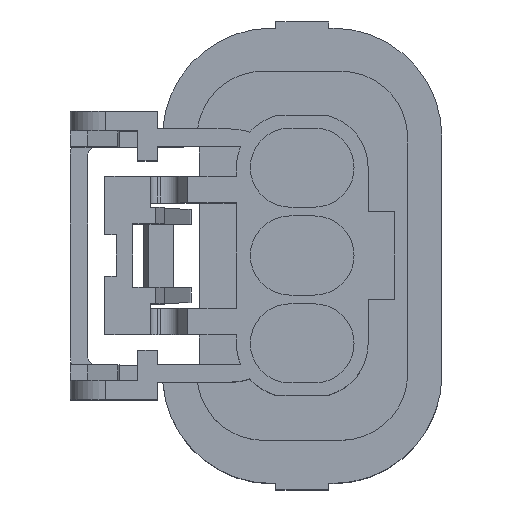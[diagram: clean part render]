
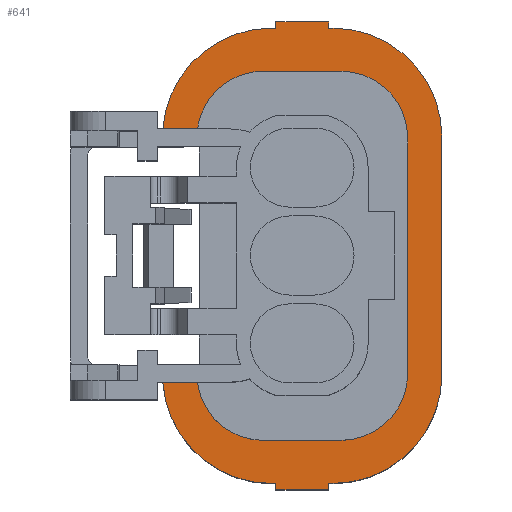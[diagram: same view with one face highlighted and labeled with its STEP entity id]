
A CAD part, top view. The second image highlights one B-rep face of the part: STEP entity #641.
In plain terms, the highlighted planar face has unit normal (0, 0, 1).
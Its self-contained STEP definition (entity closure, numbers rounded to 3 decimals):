
#317=FACE_OUTER_BOUND('',#1219,.T.);
#641=ADVANCED_FACE('',(#317),#925,.T.);
#925=PLANE('',#6514);
#1219=EDGE_LOOP('',(#2303,#2304,#2305,#2306,#2307,#2308,#2309,#2310,#2311,
#2312,#2313,#2314,#2315,#2316,#2317,#2318,#2319,#2320,#2321,#2322,#2323,
#2324,#2325,#2326));
#1455=CIRCLE('',#6415,3.8);
#1456=CIRCLE('',#6418,3.8);
#1477=CIRCLE('',#6491,3.8);
#1483=CIRCLE('',#6508,3.8);
#1484=CIRCLE('',#6510,6.2);
#1485=CIRCLE('',#6511,6.2);
#1486=CIRCLE('',#6512,6.2);
#1487=CIRCLE('',#6513,6.2);
#2303=ORIENTED_EDGE('',*,*,#4329,.F.);
#2304=ORIENTED_EDGE('',*,*,#4154,.F.);
#2305=ORIENTED_EDGE('',*,*,#4152,.F.);
#2306=ORIENTED_EDGE('',*,*,#4150,.F.);
#2307=ORIENTED_EDGE('',*,*,#4148,.F.);
#2308=ORIENTED_EDGE('',*,*,#4145,.F.);
#2309=ORIENTED_EDGE('',*,*,#4355,.F.);
#2310=ORIENTED_EDGE('',*,*,#4357,.T.);
#2311=ORIENTED_EDGE('',*,*,#4358,.F.);
#2312=ORIENTED_EDGE('',*,*,#4359,.F.);
#2313=ORIENTED_EDGE('',*,*,#4360,.F.);
#2314=ORIENTED_EDGE('',*,*,#4361,.F.);
#2315=ORIENTED_EDGE('',*,*,#4362,.F.);
#2316=ORIENTED_EDGE('',*,*,#4363,.F.);
#2317=ORIENTED_EDGE('',*,*,#4364,.F.);
#2318=ORIENTED_EDGE('',*,*,#4365,.T.);
#2319=ORIENTED_EDGE('',*,*,#4366,.F.);
#2320=ORIENTED_EDGE('',*,*,#4367,.F.);
#2321=ORIENTED_EDGE('',*,*,#4368,.F.);
#2322=ORIENTED_EDGE('',*,*,#4369,.F.);
#2323=ORIENTED_EDGE('',*,*,#4370,.F.);
#2324=ORIENTED_EDGE('',*,*,#4371,.F.);
#2325=ORIENTED_EDGE('',*,*,#4372,.F.);
#2326=ORIENTED_EDGE('',*,*,#4373,.T.);
#3503=VERTEX_POINT('',#8897);
#3504=VERTEX_POINT('',#8899);
#3505=VERTEX_POINT('',#8903);
#3506=VERTEX_POINT('',#8907);
#3507=VERTEX_POINT('',#8911);
#3508=VERTEX_POINT('',#8915);
#3629=VERTEX_POINT('',#9279);
#3645=VERTEX_POINT('',#9332);
#3646=VERTEX_POINT('',#9336);
#3647=VERTEX_POINT('',#9338);
#3648=VERTEX_POINT('',#9340);
#3649=VERTEX_POINT('',#9342);
#3650=VERTEX_POINT('',#9344);
#3651=VERTEX_POINT('',#9346);
#3652=VERTEX_POINT('',#9348);
#3653=VERTEX_POINT('',#9350);
#3654=VERTEX_POINT('',#9352);
#3655=VERTEX_POINT('',#9354);
#3656=VERTEX_POINT('',#9356);
#3657=VERTEX_POINT('',#9358);
#3658=VERTEX_POINT('',#9360);
#3659=VERTEX_POINT('',#9362);
#3660=VERTEX_POINT('',#9364);
#3661=VERTEX_POINT('',#9366);
#4145=EDGE_CURVE('',#3503,#3504,#4991,.T.);
#4148=EDGE_CURVE('',#3504,#3505,#1455,.T.);
#4150=EDGE_CURVE('',#3505,#3506,#4995,.T.);
#4152=EDGE_CURVE('',#3506,#3507,#1456,.T.);
#4154=EDGE_CURVE('',#3507,#3508,#4998,.T.);
#4329=EDGE_CURVE('',#3508,#3629,#1477,.T.);
#4355=EDGE_CURVE('',#3645,#3503,#1483,.T.);
#4357=EDGE_CURVE('',#3645,#3646,#5166,.T.);
#4358=EDGE_CURVE('',#3647,#3646,#1484,.T.);
#4359=EDGE_CURVE('',#3648,#3647,#5167,.T.);
#4360=EDGE_CURVE('',#3649,#3648,#5168,.T.);
#4361=EDGE_CURVE('',#3650,#3649,#5169,.T.);
#4362=EDGE_CURVE('',#3651,#3650,#5170,.T.);
#4363=EDGE_CURVE('',#3652,#3651,#5171,.T.);
#4364=EDGE_CURVE('',#3653,#3652,#1485,.T.);
#4365=EDGE_CURVE('',#3653,#3654,#5172,.T.);
#4366=EDGE_CURVE('',#3655,#3654,#1486,.T.);
#4367=EDGE_CURVE('',#3656,#3655,#5173,.T.);
#4368=EDGE_CURVE('',#3657,#3656,#5174,.T.);
#4369=EDGE_CURVE('',#3658,#3657,#5175,.T.);
#4370=EDGE_CURVE('',#3659,#3658,#5176,.T.);
#4371=EDGE_CURVE('',#3660,#3659,#5177,.T.);
#4372=EDGE_CURVE('',#3661,#3660,#1487,.T.);
#4373=EDGE_CURVE('',#3661,#3629,#5178,.T.);
#4991=LINE('',#8898,#5738);
#4995=LINE('',#8908,#5742);
#4998=LINE('',#8916,#5745);
#5166=LINE('',#9335,#5913);
#5167=LINE('',#9339,#5914);
#5168=LINE('',#9341,#5915);
#5169=LINE('',#9343,#5916);
#5170=LINE('',#9345,#5917);
#5171=LINE('',#9347,#5918);
#5172=LINE('',#9351,#5919);
#5173=LINE('',#9355,#5920);
#5174=LINE('',#9357,#5921);
#5175=LINE('',#9359,#5922);
#5176=LINE('',#9361,#5923);
#5177=LINE('',#9363,#5924);
#5178=LINE('',#9367,#5925);
#5738=VECTOR('',#7161,1.);
#5742=VECTOR('',#7171,1.);
#5745=VECTOR('',#7180,1.);
#5913=VECTOR('',#7528,1.);
#5914=VECTOR('',#7531,1.);
#5915=VECTOR('',#7532,1.);
#5916=VECTOR('',#7533,1.);
#5917=VECTOR('',#7534,1.);
#5918=VECTOR('',#7535,1.);
#5919=VECTOR('',#7538,1.);
#5920=VECTOR('',#7541,1.);
#5921=VECTOR('',#7542,1.);
#5922=VECTOR('',#7543,1.);
#5923=VECTOR('',#7544,1.);
#5924=VECTOR('',#7545,1.);
#5925=VECTOR('',#7548,1.);
#6415=AXIS2_PLACEMENT_3D('',#8904,#7166,#7167);
#6418=AXIS2_PLACEMENT_3D('',#8912,#7175,#7176);
#6491=AXIS2_PLACEMENT_3D('',#9278,#7469,#7470);
#6508=AXIS2_PLACEMENT_3D('',#9331,#7523,#7524);
#6510=AXIS2_PLACEMENT_3D('',#9337,#7529,#7530);
#6511=AXIS2_PLACEMENT_3D('',#9349,#7536,#7537);
#6512=AXIS2_PLACEMENT_3D('',#9353,#7539,#7540);
#6513=AXIS2_PLACEMENT_3D('',#9365,#7546,#7547);
#6514=AXIS2_PLACEMENT_3D('',#9368,#7549,#7550);
#7161=DIRECTION('',(1.,0.,0.));
#7166=DIRECTION('',(0.,0.,1.));
#7167=DIRECTION('',(0.,-1.,0.));
#7171=DIRECTION('',(0.,1.,0.));
#7175=DIRECTION('',(0.,0.,1.));
#7176=DIRECTION('',(1.,0.,0.));
#7180=DIRECTION('',(-1.,0.,0.));
#7469=DIRECTION('',(0.,0.,1.));
#7470=DIRECTION('',(0.,1.,0.));
#7523=DIRECTION('',(0.,0.,1.));
#7524=DIRECTION('',(-0.991,-0.132,0.));
#7528=DIRECTION('',(-1.,0.,0.));
#7529=DIRECTION('',(0.,0.,-1.));
#7530=DIRECTION('',(0.,-1.,0.));
#7531=DIRECTION('',(-1.,0.,0.));
#7532=DIRECTION('',(0.,1.,0.));
#7533=DIRECTION('',(-1.,0.,0.));
#7534=DIRECTION('',(0.,-1.,0.));
#7535=DIRECTION('',(-1.,0.,0.));
#7536=DIRECTION('',(0.,0.,-1.));
#7537=DIRECTION('',(1.,0.,0.));
#7538=DIRECTION('',(0.,1.,0.));
#7539=DIRECTION('',(0.,0.,-1.));
#7540=DIRECTION('',(0.,1.,0.));
#7541=DIRECTION('',(1.,0.,0.));
#7542=DIRECTION('',(0.,-1.,0.));
#7543=DIRECTION('',(1.,0.,0.));
#7544=DIRECTION('',(0.,1.,0.));
#7545=DIRECTION('',(1.,0.,0.));
#7546=DIRECTION('',(0.,0.,-1.));
#7547=DIRECTION('',(-0.997,0.073,0.));
#7548=DIRECTION('',(1.,0.,0.));
#7549=DIRECTION('',(0.,0.,1.));
#7550=DIRECTION('',(1.,0.,0.));
#8897=CARTESIAN_POINT('',(-2.2,-10.5,21.5));
#8898=CARTESIAN_POINT('',(-2.2,-10.5,21.5));
#8899=CARTESIAN_POINT('',(2.2,-10.5,21.5));
#8903=CARTESIAN_POINT('',(6.,-6.7,21.5));
#8904=CARTESIAN_POINT('',(2.2,-6.7,21.5));
#8907=CARTESIAN_POINT('',(6.,6.7,21.5));
#8908=CARTESIAN_POINT('',(6.,-6.7,21.5));
#8911=CARTESIAN_POINT('',(2.2,10.5,21.5));
#8912=CARTESIAN_POINT('',(2.2,6.7,21.5));
#8915=CARTESIAN_POINT('',(-2.2,10.5,21.5));
#8916=CARTESIAN_POINT('',(2.2,10.5,21.5));
#9278=CARTESIAN_POINT('',(-2.2,6.7,21.5));
#9279=CARTESIAN_POINT('',(-5.967,7.2,21.5));
#9331=CARTESIAN_POINT('',(-2.2,-6.7,21.5));
#9332=CARTESIAN_POINT('',(-5.967,-7.2,21.5));
#9335=CARTESIAN_POINT('',(-5.967,-7.2,21.5));
#9336=CARTESIAN_POINT('',(-7.934,-7.2,21.5));
#9337=CARTESIAN_POINT('',(-1.75,-6.75,21.5));
#9338=CARTESIAN_POINT('',(-1.75,-12.95,21.5));
#9339=CARTESIAN_POINT('',(-1.5,-12.95,21.5));
#9340=CARTESIAN_POINT('',(-1.5,-12.95,21.5));
#9341=CARTESIAN_POINT('',(-1.5,-13.3,21.5));
#9342=CARTESIAN_POINT('',(-1.5,-13.3,21.5));
#9343=CARTESIAN_POINT('',(1.5,-13.3,21.5));
#9344=CARTESIAN_POINT('',(1.5,-13.3,21.5));
#9345=CARTESIAN_POINT('',(1.5,-12.95,21.5));
#9346=CARTESIAN_POINT('',(1.5,-12.95,21.5));
#9347=CARTESIAN_POINT('',(1.75,-12.95,21.5));
#9348=CARTESIAN_POINT('',(1.75,-12.95,21.5));
#9349=CARTESIAN_POINT('',(1.75,-6.75,21.5));
#9350=CARTESIAN_POINT('',(7.95,-6.75,21.5));
#9351=CARTESIAN_POINT('',(7.95,-6.75,21.5));
#9352=CARTESIAN_POINT('',(7.95,6.75,21.5));
#9353=CARTESIAN_POINT('',(1.75,6.75,21.5));
#9354=CARTESIAN_POINT('',(1.75,12.95,21.5));
#9355=CARTESIAN_POINT('',(1.5,12.95,21.5));
#9356=CARTESIAN_POINT('',(1.5,12.95,21.5));
#9357=CARTESIAN_POINT('',(1.5,13.3,21.5));
#9358=CARTESIAN_POINT('',(1.5,13.3,21.5));
#9359=CARTESIAN_POINT('',(-1.5,13.3,21.5));
#9360=CARTESIAN_POINT('',(-1.5,13.3,21.5));
#9361=CARTESIAN_POINT('',(-1.5,12.95,21.5));
#9362=CARTESIAN_POINT('',(-1.5,12.95,21.5));
#9363=CARTESIAN_POINT('',(-1.75,12.95,21.5));
#9364=CARTESIAN_POINT('',(-1.75,12.95,21.5));
#9365=CARTESIAN_POINT('',(-1.75,6.75,21.5));
#9366=CARTESIAN_POINT('',(-7.934,7.2,21.5));
#9367=CARTESIAN_POINT('',(-7.934,7.2,21.5));
#9368=CARTESIAN_POINT('',(0.,0.,21.5));
